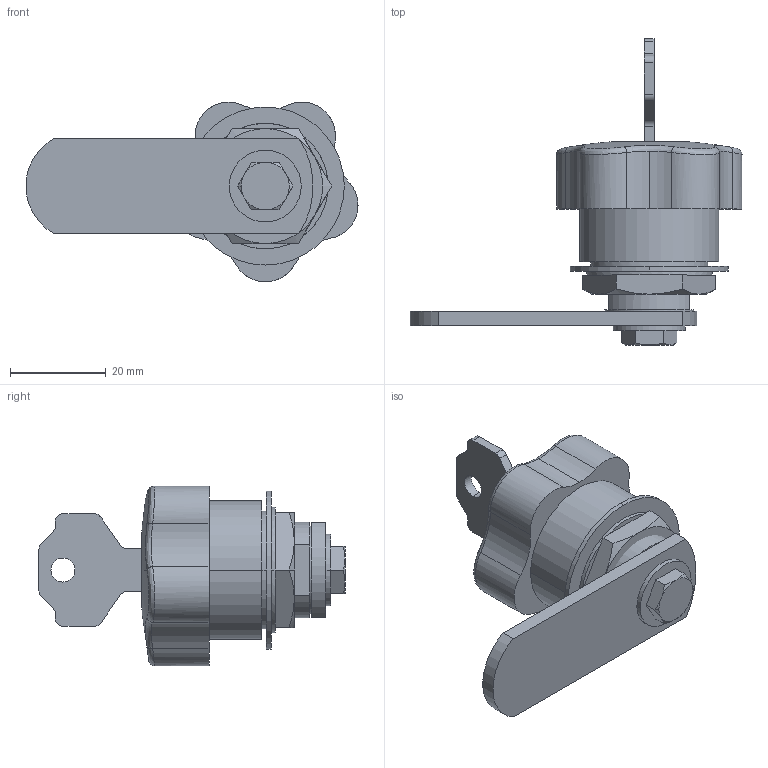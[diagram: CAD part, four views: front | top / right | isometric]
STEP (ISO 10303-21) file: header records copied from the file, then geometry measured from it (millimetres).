
FILE_DESCRIPTION (( 'STEP AP214' ), '1' );
FILE_NAME ('217-40-A-SR.step', '2022-09-01T12:12:18', ( '' ), ( '' ), 'SwSTEP 2.0', 'SolidWorks 2022', '' );
FILE_SCHEMA (( 'AUTOMOTIVE_DESIGN' ));
Length unit declared in the file: millimetre
Products named in the file (6): WB217_Zunge^WB217_10; Schlüssel^WB217; 217-40-A-SR; WB217_Mutter_Scheibe^WB217; WB217^WB217_SR; WB217_Scheibe zum anschweißen^WB217
Assembly tree (5 placements, depth 2):
  217-40-A-SR
    WB217^WB217_SR
    WB217_Scheibe zum anschweißen^WB217
    WB217_Mutter_Scheibe^WB217
    WB217_Zunge^WB217_10
    Schlüssel^WB217
Bounding box: 69.32 x 63.9 x 37.51 mm (x, y, z)
Volume: 30240.8 mm3; surface area: 11983 mm2
Topology: 5 solids, 5 shells, 172 faces, 417 edges, 263 vertices
Faces by surface type: plane 83, cylinder 59, cone 16, bspline 10, torus 2, sphere 2
Entity records: 6999 total; most frequent: CARTESIAN_POINT 1946, DIRECTION 869, ORIENTED_EDGE 834, EDGE_CURVE 417, AXIS2_PLACEMENT_3D 330, VERTEX_POINT 263, VECTOR 209, LINE 209
